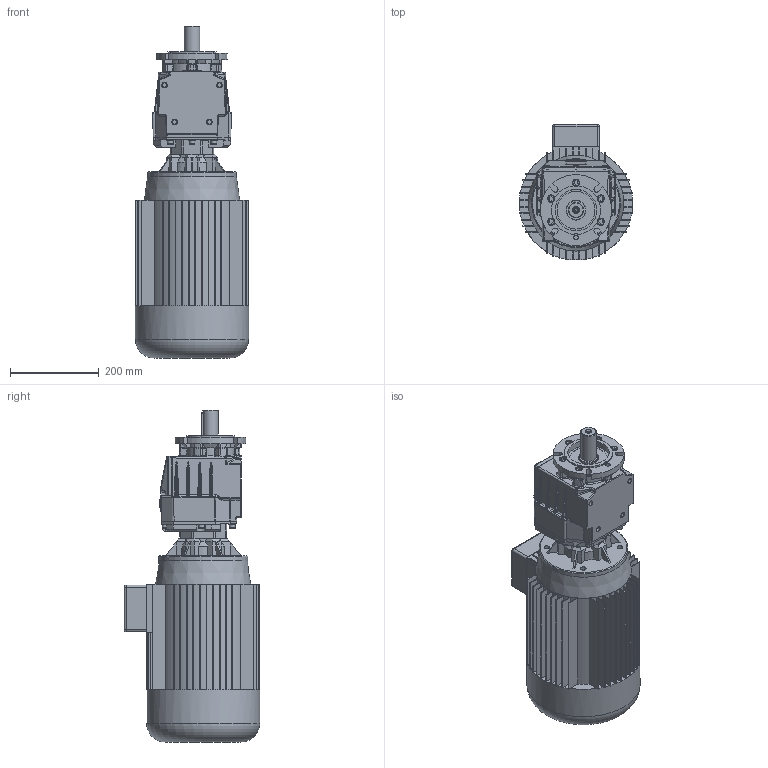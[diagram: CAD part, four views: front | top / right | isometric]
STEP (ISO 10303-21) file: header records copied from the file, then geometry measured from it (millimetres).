
FILE_DESCRIPTION( ( 'Unknown' ), '1' );
FILE_NAME( 'E:/services/configuratordownloads/customers/HYDROMEC/COASSIALI/download/91B5933B7DF3950ABDAEE8FE5740E4/STEP/91B5933B7DF3950ABDAEE8FE5740E4.3d.stp', 'Unknown', ( 'Unknown' ), ( 'Unknown' ), 'PSStep 10.1', 'Unknown', ' ' );
FILE_SCHEMA( ( 'AUTOMOTIVE_DESIGN { 1 0 10303 214 1 1 1 1 }' ) );
Length unit declared in the file: millimetre
Products named in the file (1): C618800
Bounding box: 254.95 x 305.48 x 747.4 mm (x, y, z)
Volume: 22947844.1 mm3; surface area: 1189968.7 mm2
Topology: 1 solids, 33 shells, 1917 faces, 4807 edges, 3017 vertices
Faces by surface type: plane 1062, cylinder 462, bspline 196, cone 121, torus 38, sphere 26, revolution 8, extrusion 4
Full cylindrical faces by diameter (mm): 4.917 x6, 6 x6, 6.5 x1, 7.175 x6, 8 x1, 8.376 x6, 8.5 x12, 10 x7, 10.106 x4, 10.5 x6, 11.3 x1, 11.445 x2, 12.5 x4, 12.75 x8, 13 x6, 13.5 x1, 15.8 x5, 16.5 x5, 18 x1, 19 x1, 20 x1, 22 x1, 35 x1, 38 x1, 40 x1, 43.5 x1, 45 x1, 61 x1, 63 x1, 85 x1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
Entity records: 82324 total; most frequent: CARTESIAN_POINT 23823, ORIENTED_EDGE 9012, DIRECTION 8390, EDGE_CURVE 4506, VERTEX_POINT 2920, AXIS2_PLACEMENT_3D 2868, VECTOR 2646, LINE 2642
